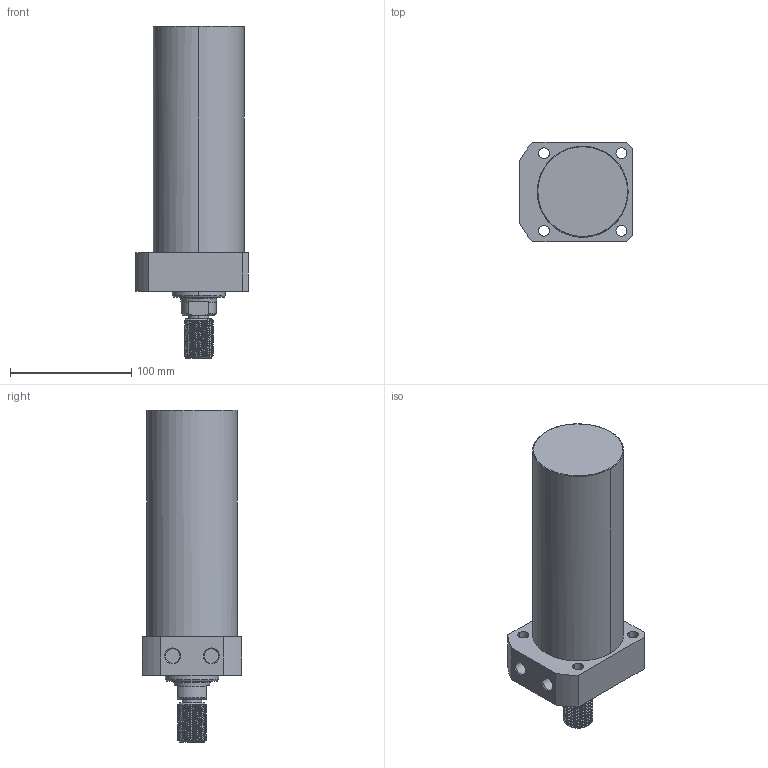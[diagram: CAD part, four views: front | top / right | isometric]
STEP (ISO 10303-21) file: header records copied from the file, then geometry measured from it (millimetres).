
FILE_DESCRIPTION((' '),'2;1');
FILE_NAME( 'TLLR-075CT-150.STEP.stp', '2025-10-24T16:35:14', (' '), ('--- Datakit www.datakit.com---'), ' Datakit CrossCadWare V2024.1 Dec 21 2023', 'Mastercam 2025', ' ');
FILE_SCHEMA(('AUTOMOTIVE_DESIGN { 1 0 10303 214 1 1 1 1 }'));
Length unit declared in the file: millimetre
Products named in the file (1): TLLR-075CT-150
Bounding box: 93 x 82 x 274 mm (x, y, z)
Volume: 1083023.9 mm3; surface area: 80286.1 mm2
Topology: 1 solids, 1 shells, 110 faces, 400 edges, 301 vertices
Faces by surface type: cylinder 69, plane 22, cone 15, bspline 2, torus 2
Entity records: 13133 total; most frequent: CARTESIAN_POINT 9738, ORIENTED_EDGE 800, DIRECTION 550, EDGE_CURVE 400, VERTEX_POINT 301, AXIS2_PLACEMENT_3D 221, B_SPLINE_CURVE_WITH_KNOTS 180, EDGE_LOOP 127
